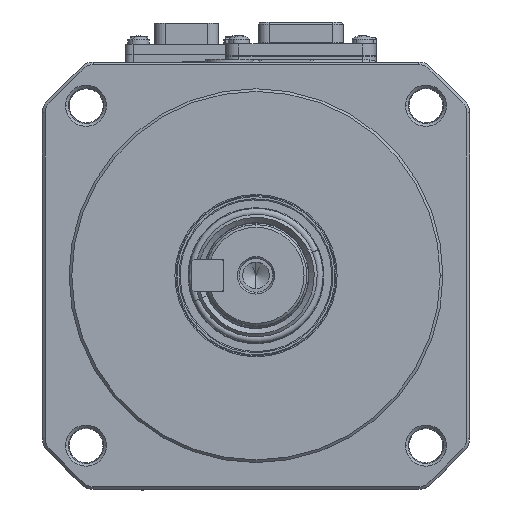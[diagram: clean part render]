
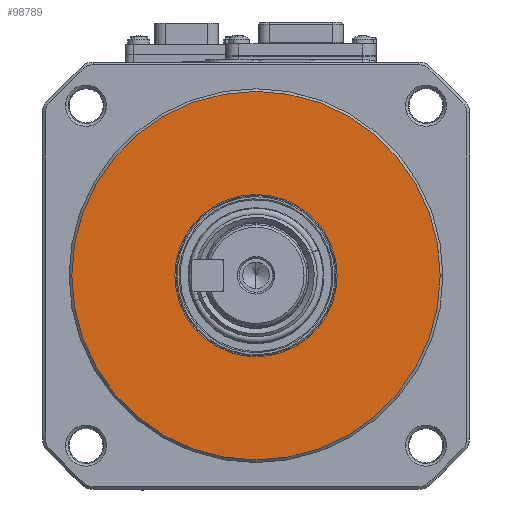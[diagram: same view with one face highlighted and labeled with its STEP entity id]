
A CAD part, top view. The second image highlights one B-rep face of the part: STEP entity #98789.
In plain terms, the highlighted planar face has unit normal (0, 0, 1).
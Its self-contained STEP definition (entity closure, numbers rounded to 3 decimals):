
#3443 = EDGE_CURVE ( 'NONE', #117295, #118172, #96652, .T. ) ;
#3610 = CARTESIAN_POINT ( 'NONE',  ( 0., 15.191, 0. ) ) ;
#5392 = DIRECTION ( 'NONE',  ( 0., 1., 0. ) ) ;
#8453 = DIRECTION ( 'NONE',  ( 1., 0., 0. ) ) ;
#9026 = AXIS2_PLACEMENT_3D ( 'NONE', #85184, #52529, #23218 ) ;
#10985 = ORIENTED_EDGE ( 'NONE', *, *, #91783, .T. ) ;
#12483 = EDGE_CURVE ( 'NONE', #118172, #117295, #41401, .T. ) ;
#13816 = CIRCLE ( 'NONE', #42948, 34.5 ) ;
#18513 = DIRECTION ( 'NONE',  ( 1., 0., 0. ) ) ;
#19713 = EDGE_CURVE ( 'NONE', #117716, #28397, #13816, .T. ) ;
#20433 = DIRECTION ( 'NONE',  ( 0., 0., 1. ) ) ;
#20509 = ORIENTED_EDGE ( 'NONE', *, *, #3443, .T. ) ;
#22538 = PLANE ( 'NONE',  #35781 ) ;
#23218 = DIRECTION ( 'NONE',  ( 0., 1., 0. ) ) ;
#24058 = CIRCLE ( 'NONE', #76126, 34.5 ) ;
#25617 = FACE_OUTER_BOUND ( 'NONE', #82040, .T. ) ;
#28397 = VERTEX_POINT ( 'NONE', #87662 ) ;
#28813 = CARTESIAN_POINT ( 'NONE',  ( 0., 14.7, 0. ) ) ;
#32300 = FACE_BOUND ( 'NONE', #125164, .T. ) ;
#35781 = AXIS2_PLACEMENT_3D ( 'NONE', #28813, #118912, #108444 ) ;
#38717 = CARTESIAN_POINT ( 'NONE',  ( 0., 0., 0. ) ) ;
#41401 = CIRCLE ( 'NONE', #101891, 15.191 ) ;
#42948 = AXIS2_PLACEMENT_3D ( 'NONE', #46362, #56183, #8453 ) ;
#46362 = CARTESIAN_POINT ( 'NONE',  ( 0., 0., 0. ) ) ;
#52529 = DIRECTION ( 'NONE',  ( 0., 0., -1. ) ) ;
#56183 = DIRECTION ( 'NONE',  ( 0., 0., 1. ) ) ;
#76126 = AXIS2_PLACEMENT_3D ( 'NONE', #38717, #20433, #18513 ) ;
#76238 = CARTESIAN_POINT ( 'NONE',  ( 0., -15.191, 0. ) ) ;
#78595 = ORIENTED_EDGE ( 'NONE', *, *, #12483, .T. ) ;
#82040 = EDGE_LOOP ( 'NONE', ( #89890, #10985 ) ) ;
#85184 = CARTESIAN_POINT ( 'NONE',  ( 0., 0., 0. ) ) ;
#87662 = CARTESIAN_POINT ( 'NONE',  ( 34.5, 0., 0. ) ) ;
#89890 = ORIENTED_EDGE ( 'NONE', *, *, #19713, .T. ) ;
#91783 = EDGE_CURVE ( 'NONE', #28397, #117716, #24058, .T. ) ;
#94241 = DIRECTION ( 'NONE',  ( 0., 0., -1. ) ) ;
#96652 = CIRCLE ( 'NONE', #9026, 15.191 ) ;
#98789 = ADVANCED_FACE ( 'NONE', ( #32300, #25617 ), #22538, .F. ) ;
#101891 = AXIS2_PLACEMENT_3D ( 'NONE', #106006, #94241, #5392 ) ;
#106006 = CARTESIAN_POINT ( 'NONE',  ( 0., 0., 0. ) ) ;
#108444 = DIRECTION ( 'NONE',  ( 0., 1., 0. ) ) ;
#117295 = VERTEX_POINT ( 'NONE', #3610 ) ;
#117716 = VERTEX_POINT ( 'NONE', #126081 ) ;
#118172 = VERTEX_POINT ( 'NONE', #76238 ) ;
#118912 = DIRECTION ( 'NONE',  ( 0., 0., -1. ) ) ;
#125164 = EDGE_LOOP ( 'NONE', ( #20509, #78595 ) ) ;
#126081 = CARTESIAN_POINT ( 'NONE',  ( -34.5, 0., 0. ) ) ;
